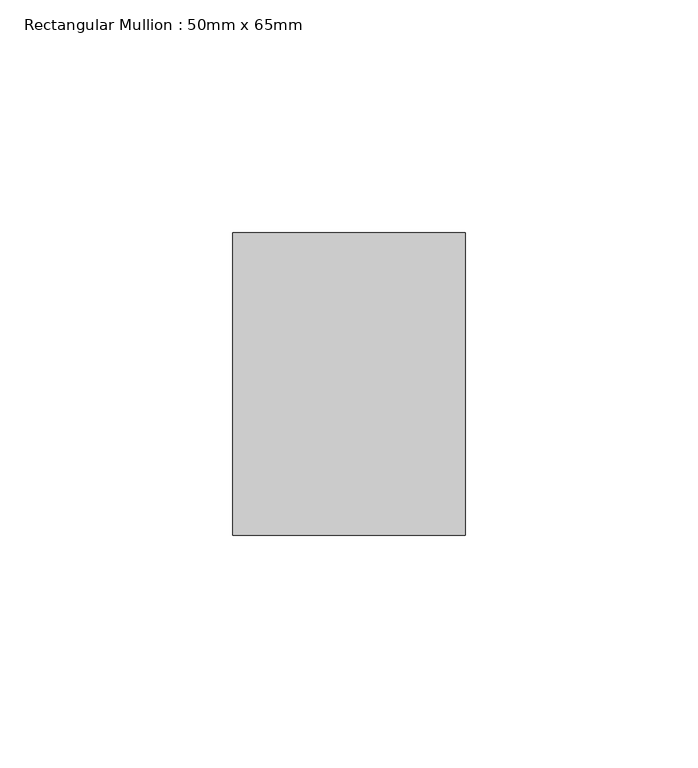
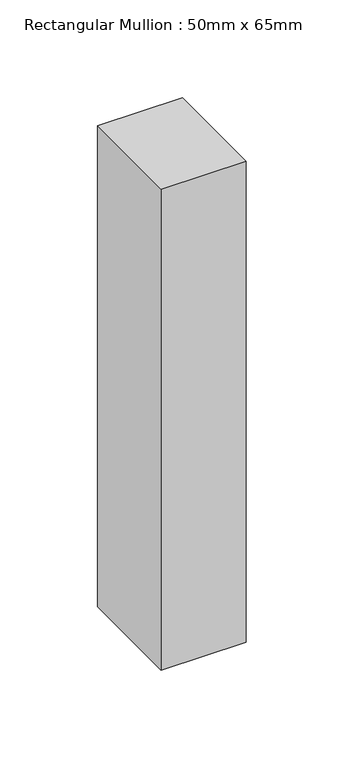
"""IFC4 building model written with IfcOpenShell, lengths in millimetres: member geometry, Rectangular Mullion : 50mm x 65mm."""

from ifc_helpers import new_model, si_unit, frame, origin, place, context, project, spatial, polyline, outline, extrude, source, transform, mapped, element, save


def rectangular_mullion_50mm_x_65mm_7b3be378(model_context):
    return source(origin(), model_context, "Body", "SweptSolid", [
        extrude(outline(polyline([(0.0, 32.5), (0.0, -32.5), (-50.0, -32.5), (-50.0, 32.5), (0.0, 32.5)])), frame((0.0, 0.0, -299.9999999), z_axis=(0.0, 0.0, 1.0), x_axis=(1.0, 0.0, 0.0)), (0.0, 0.0, 1.0), 299.9999999),
    ])


if __name__ == "__main__":
    model = new_model("IFC4")
    model_context = context("Model", 3, world=origin())
    ifc_project = project(units=[si_unit("LENGTHUNIT", "METRE", prefix="MILLI")], contexts=[model_context])
    site = spatial("IfcSite", under=ifc_project)
    building = spatial("IfcBuilding", under=site)
    placement = place(None, origin())
    rectangular_mullion_50mm_x_65mm_shape = rectangular_mullion_50mm_x_65mm_7b3be378(model_context)
    element("IfcMember", 1, ObjectType="Rectangular Mullion : 50mm x 65mm", at=placement, inside=building, context=model_context, shape_type="MappedRepresentation", body=[
        mapped(rectangular_mullion_50mm_x_65mm_shape, transform((0.0, 0.0, 0.0), x_axis=(1.0, 0.0, 0.0), y_axis=(0.0, 1.0, 0.0), z_axis=(0.0, 0.0, 1.0))),
    ])
    save(model, "model.ifc")
